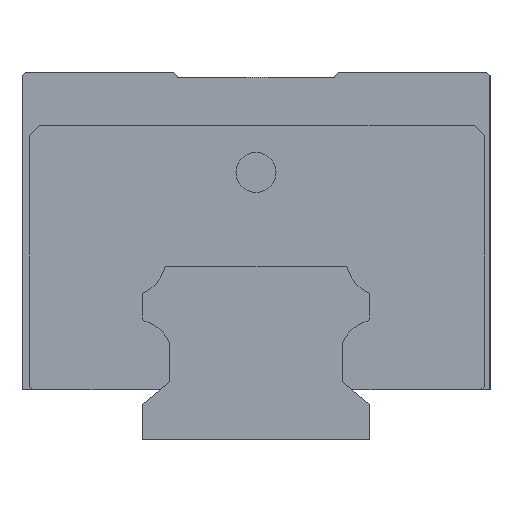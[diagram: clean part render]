
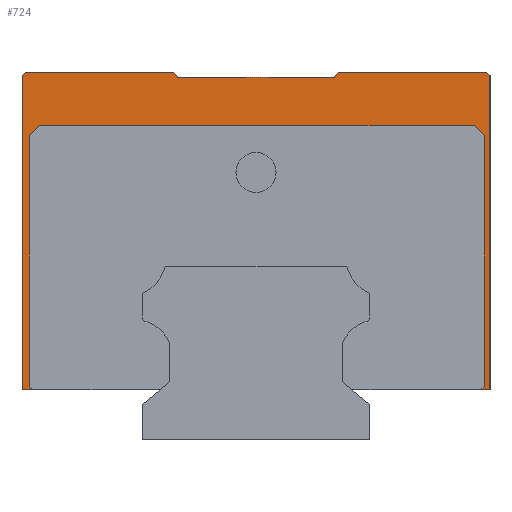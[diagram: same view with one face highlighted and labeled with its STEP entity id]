
A CAD part, left-side view. The second image highlights one B-rep face of the part: STEP entity #724.
In plain terms, the highlighted planar face has unit normal (-1, 0, 0).
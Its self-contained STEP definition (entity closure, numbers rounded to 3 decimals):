
#46 = EDGE_CURVE ( 'NONE', #3028, #3819, #156, .T. ) ;
#56 = VECTOR ( 'NONE', #1012, 1000. ) ;
#79 = VECTOR ( 'NONE', #4916, 1000. ) ;
#108 = EDGE_CURVE ( 'NONE', #4951, #2976, #4619, .T. ) ;
#156 = LINE ( 'NONE', #5118, #540 ) ;
#163 = LINE ( 'NONE', #1487, #1809 ) ;
#224 = EDGE_CURVE ( 'NONE', #4192, #1557, #3972, .T. ) ;
#245 = LINE ( 'NONE', #1144, #2433 ) ;
#293 = ORIENTED_EDGE ( 'NONE', *, *, #1048, .F. ) ;
#328 = CARTESIAN_POINT ( 'NONE',  ( -39.5, 34.5, 55. ) ) ;
#382 = VECTOR ( 'NONE', #5823, 1000. ) ;
#388 = CARTESIAN_POINT ( 'NONE',  ( -39.5, -35., 7.5 ) ) ;
#400 = VERTEX_POINT ( 'NONE', #4558 ) ;
#404 = VECTOR ( 'NONE', #3175, 1000. ) ;
#493 = ORIENTED_EDGE ( 'NONE', *, *, #4178, .F. ) ;
#513 = CARTESIAN_POINT ( 'NONE',  ( -39.5, 11.667, 54.25 ) ) ;
#517 = CARTESIAN_POINT ( 'NONE',  ( -39.5, -32.628, 47. ) ) ;
#540 = VECTOR ( 'NONE', #4239, 1000. ) ;
#615 = VERTEX_POINT ( 'NONE', #4373 ) ;
#724 = ADVANCED_FACE ( 'NONE', ( #2717 ), #1718, .F. ) ;
#725 = CARTESIAN_POINT ( 'NONE',  ( -39.5, 32.372, 47. ) ) ;
#734 = CARTESIAN_POINT ( 'NONE',  ( -39.5, -12.296, 55. ) ) ;
#740 = DIRECTION ( 'NONE',  ( 0., 0.707, -0.707 ) ) ;
#745 = VECTOR ( 'NONE', #1871, 1000. ) ;
#844 = DIRECTION ( 'NONE',  ( 0., 0., -1. ) ) ;
#854 = CARTESIAN_POINT ( 'NONE',  ( -39.5, 11.667, 54.25 ) ) ;
#897 = EDGE_CURVE ( 'NONE', #4470, #2649, #4159, .T. ) ;
#1012 = DIRECTION ( 'NONE',  ( 0., 0.643, 0.766 ) ) ;
#1048 = EDGE_CURVE ( 'NONE', #4192, #2649, #3418, .T. ) ;
#1053 = DIRECTION ( 'NONE',  ( 0., 0., -1. ) ) ;
#1058 = CARTESIAN_POINT ( 'NONE',  ( -39.5, 33.372, 7.5 ) ) ;
#1080 = VECTOR ( 'NONE', #1285, 1000. ) ;
#1126 = CARTESIAN_POINT ( 'NONE',  ( -39.5, 32.372, 47. ) ) ;
#1144 = CARTESIAN_POINT ( 'NONE',  ( -39.5, 35., 7.5 ) ) ;
#1156 = ORIENTED_EDGE ( 'NONE', *, *, #108, .F. ) ;
#1169 = LINE ( 'NONE', #734, #2189 ) ;
#1173 = ORIENTED_EDGE ( 'NONE', *, *, #46, .F. ) ;
#1176 = LINE ( 'NONE', #4406, #1080 ) ;
#1184 = DIRECTION ( 'NONE',  ( 0., -1., 0. ) ) ;
#1201 = EDGE_CURVE ( 'NONE', #400, #2515, #4014, .T. ) ;
#1208 = VERTEX_POINT ( 'NONE', #388 ) ;
#1284 = LINE ( 'NONE', #3489, #2385 ) ;
#1285 = DIRECTION ( 'NONE',  ( 0., 1., 0. ) ) ;
#1321 = VERTEX_POINT ( 'NONE', #1419 ) ;
#1397 = EDGE_CURVE ( 'NONE', #2994, #1557, #245, .T. ) ;
#1419 = CARTESIAN_POINT ( 'NONE',  ( -39.5, -35., 54.5 ) ) ;
#1487 = CARTESIAN_POINT ( 'NONE',  ( -39.5, -11.667, 54.25 ) ) ;
#1526 = CARTESIAN_POINT ( 'NONE',  ( -39.5, 34.5, 55. ) ) ;
#1555 = CARTESIAN_POINT ( 'NONE',  ( -39.5, 33.872, 45.5 ) ) ;
#1557 = VERTEX_POINT ( 'NONE', #4928 ) ;
#1623 = ORIENTED_EDGE ( 'NONE', *, *, #1688, .F. ) ;
#1643 = EDGE_CURVE ( 'NONE', #615, #4071, #4424, .T. ) ;
#1688 = EDGE_CURVE ( 'NONE', #2976, #4544, #5019, .T. ) ;
#1718 = PLANE ( 'NONE',  #3513 ) ;
#1809 = VECTOR ( 'NONE', #3249, 1000. ) ;
#1825 = CARTESIAN_POINT ( 'NONE',  ( -39.5, -34.5, 55. ) ) ;
#1861 = EDGE_CURVE ( 'NONE', #4544, #4130, #2045, .T. ) ;
#1871 = DIRECTION ( 'NONE',  ( 0., 1., 0. ) ) ;
#2045 = LINE ( 'NONE', #1126, #3986 ) ;
#2112 = LINE ( 'NONE', #3869, #4997 ) ;
#2174 = CARTESIAN_POINT ( 'NONE',  ( -39.5, -34.128, 45.5 ) ) ;
#2189 = VECTOR ( 'NONE', #2966, 1000. ) ;
#2356 = LINE ( 'NONE', #3557, #404 ) ;
#2385 = VECTOR ( 'NONE', #844, 1000. ) ;
#2420 = DIRECTION ( 'NONE',  ( 0., 0.707, 0.707 ) ) ;
#2433 = VECTOR ( 'NONE', #4357, 1000. ) ;
#2485 = ORIENTED_EDGE ( 'NONE', *, *, #4886, .F. ) ;
#2515 = VERTEX_POINT ( 'NONE', #1058 ) ;
#2567 = CARTESIAN_POINT ( 'NONE',  ( -39.5, 35., 55. ) ) ;
#2599 = VECTOR ( 'NONE', #2420, 1000. ) ;
#2645 = EDGE_LOOP ( 'NONE', ( #4600, #1173, #4243, #2485, #4141, #2818, #4917, #4042, #2967, #293, #5809, #3533, #2978, #3245, #493, #3712, #1623, #1156 ) ) ;
#2649 = VERTEX_POINT ( 'NONE', #3405 ) ;
#2696 = EDGE_CURVE ( 'NONE', #1208, #3028, #1176, .T. ) ;
#2717 = FACE_OUTER_BOUND ( 'NONE', #2645, .T. ) ;
#2765 = CARTESIAN_POINT ( 'NONE',  ( -39.5, 14.65, 7.5 ) ) ;
#2818 = ORIENTED_EDGE ( 'NONE', *, *, #1643, .F. ) ;
#2966 = DIRECTION ( 'NONE',  ( 0., 0.643, -0.766 ) ) ;
#2967 = ORIENTED_EDGE ( 'NONE', *, *, #897, .T. ) ;
#2976 = VERTEX_POINT ( 'NONE', #3337 ) ;
#2978 = ORIENTED_EDGE ( 'NONE', *, *, #4105, .F. ) ;
#2994 = VERTEX_POINT ( 'NONE', #4287 ) ;
#3012 = EDGE_CURVE ( 'NONE', #3819, #4951, #2112, .T. ) ;
#3028 = VERTEX_POINT ( 'NONE', #5395 ) ;
#3175 = DIRECTION ( 'NONE',  ( 0., 0.707, 0.707 ) ) ;
#3245 = ORIENTED_EDGE ( 'NONE', *, *, #1201, .F. ) ;
#3249 = DIRECTION ( 'NONE',  ( 0., 1., 0. ) ) ;
#3285 = EDGE_CURVE ( 'NONE', #4726, #4470, #163, .T. ) ;
#3337 = CARTESIAN_POINT ( 'NONE',  ( -39.5, -32.628, 47. ) ) ;
#3405 = CARTESIAN_POINT ( 'NONE',  ( -39.5, 12.296, 55. ) ) ;
#3418 = LINE ( 'NONE', #2567, #3768 ) ;
#3489 = CARTESIAN_POINT ( 'NONE',  ( -39.5, -35., 55. ) ) ;
#3513 = AXIS2_PLACEMENT_3D ( 'NONE', #4923, #5743, #4484 ) ;
#3533 = ORIENTED_EDGE ( 'NONE', *, *, #1397, .F. ) ;
#3557 = CARTESIAN_POINT ( 'NONE',  ( -39.5, -35., 54.5 ) ) ;
#3712 = ORIENTED_EDGE ( 'NONE', *, *, #1861, .F. ) ;
#3756 = LINE ( 'NONE', #1555, #5755 ) ;
#3768 = VECTOR ( 'NONE', #1184, 1000. ) ;
#3819 = VERTEX_POINT ( 'NONE', #5147 ) ;
#3869 = CARTESIAN_POINT ( 'NONE',  ( -39.5, -34.128, 8. ) ) ;
#3961 = CARTESIAN_POINT ( 'NONE',  ( -39.5, 35., 55. ) ) ;
#3972 = LINE ( 'NONE', #328, #4260 ) ;
#3986 = VECTOR ( 'NONE', #5633, 1000. ) ;
#3994 = DIRECTION ( 'NONE',  ( 0., -1., 0. ) ) ;
#4014 = LINE ( 'NONE', #5799, #79 ) ;
#4033 = LINE ( 'NONE', #2765, #382 ) ;
#4042 = ORIENTED_EDGE ( 'NONE', *, *, #3285, .T. ) ;
#4071 = VERTEX_POINT ( 'NONE', #1825 ) ;
#4105 = EDGE_CURVE ( 'NONE', #2515, #2994, #4033, .T. ) ;
#4130 = VERTEX_POINT ( 'NONE', #5030 ) ;
#4141 = ORIENTED_EDGE ( 'NONE', *, *, #4668, .T. ) ;
#4159 = LINE ( 'NONE', #513, #56 ) ;
#4178 = EDGE_CURVE ( 'NONE', #4130, #400, #3756, .T. ) ;
#4192 = VERTEX_POINT ( 'NONE', #1526 ) ;
#4239 = DIRECTION ( 'NONE',  ( 0., -0.707, 0.707 ) ) ;
#4243 = ORIENTED_EDGE ( 'NONE', *, *, #2696, .F. ) ;
#4260 = VECTOR ( 'NONE', #740, 1000. ) ;
#4287 = CARTESIAN_POINT ( 'NONE',  ( -39.5, 35., 7.5 ) ) ;
#4295 = EDGE_CURVE ( 'NONE', #615, #4726, #1169, .T. ) ;
#4357 = DIRECTION ( 'NONE',  ( 0., 0., 1. ) ) ;
#4373 = CARTESIAN_POINT ( 'NONE',  ( -39.5, -12.296, 55. ) ) ;
#4406 = CARTESIAN_POINT ( 'NONE',  ( -39.5, -35., 7.5 ) ) ;
#4424 = LINE ( 'NONE', #3961, #4866 ) ;
#4470 = VERTEX_POINT ( 'NONE', #854 ) ;
#4484 = DIRECTION ( 'NONE',  ( 0., 1., 0. ) ) ;
#4544 = VERTEX_POINT ( 'NONE', #725 ) ;
#4558 = CARTESIAN_POINT ( 'NONE',  ( -39.5, 33.872, 8. ) ) ;
#4600 = ORIENTED_EDGE ( 'NONE', *, *, #3012, .F. ) ;
#4619 = LINE ( 'NONE', #5533, #2599 ) ;
#4668 = EDGE_CURVE ( 'NONE', #1321, #4071, #2356, .T. ) ;
#4726 = VERTEX_POINT ( 'NONE', #4943 ) ;
#4866 = VECTOR ( 'NONE', #3994, 1000. ) ;
#4886 = EDGE_CURVE ( 'NONE', #1321, #1208, #1284, .T. ) ;
#4916 = DIRECTION ( 'NONE',  ( 0., -0.707, -0.707 ) ) ;
#4917 = ORIENTED_EDGE ( 'NONE', *, *, #4295, .T. ) ;
#4923 = CARTESIAN_POINT ( 'NONE',  ( -39.5, -35., 55. ) ) ;
#4928 = CARTESIAN_POINT ( 'NONE',  ( -39.5, 35., 54.5 ) ) ;
#4943 = CARTESIAN_POINT ( 'NONE',  ( -39.5, -11.667, 54.25 ) ) ;
#4951 = VERTEX_POINT ( 'NONE', #2174 ) ;
#4997 = VECTOR ( 'NONE', #5666, 1000. ) ;
#5019 = LINE ( 'NONE', #517, #745 ) ;
#5030 = CARTESIAN_POINT ( 'NONE',  ( -39.5, 33.872, 45.5 ) ) ;
#5118 = CARTESIAN_POINT ( 'NONE',  ( -39.5, -33.628, 7.5 ) ) ;
#5147 = CARTESIAN_POINT ( 'NONE',  ( -39.5, -34.128, 8. ) ) ;
#5395 = CARTESIAN_POINT ( 'NONE',  ( -39.5, -33.628, 7.5 ) ) ;
#5533 = CARTESIAN_POINT ( 'NONE',  ( -39.5, -34.128, 45.5 ) ) ;
#5633 = DIRECTION ( 'NONE',  ( 0., 0.707, -0.707 ) ) ;
#5666 = DIRECTION ( 'NONE',  ( 0., 0., 1. ) ) ;
#5743 = DIRECTION ( 'NONE',  ( 1., 0., 0. ) ) ;
#5755 = VECTOR ( 'NONE', #1053, 1000. ) ;
#5799 = CARTESIAN_POINT ( 'NONE',  ( -39.5, 33.872, 8. ) ) ;
#5809 = ORIENTED_EDGE ( 'NONE', *, *, #224, .T. ) ;
#5823 = DIRECTION ( 'NONE',  ( 0., 1., 0. ) ) ;
